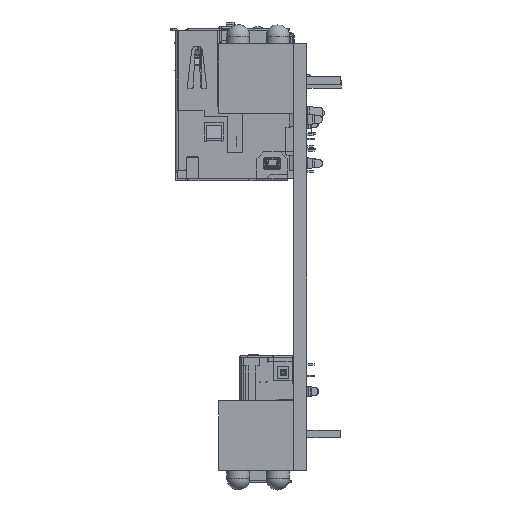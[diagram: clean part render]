
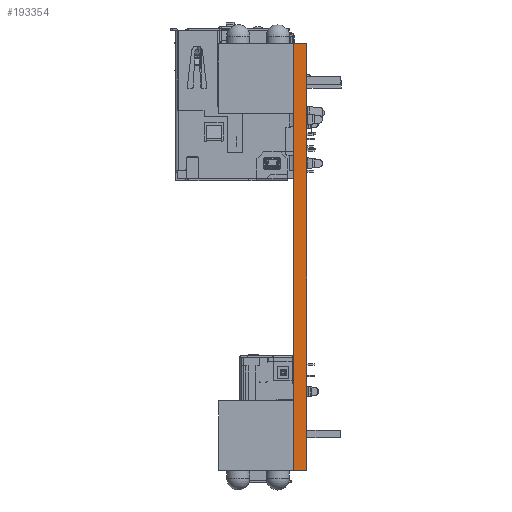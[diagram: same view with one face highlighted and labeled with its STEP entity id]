
A CAD part, left-side view. The second image highlights one B-rep face of the part: STEP entity #193354.
In plain terms, the highlighted planar face has unit normal (-1, 0, 0).
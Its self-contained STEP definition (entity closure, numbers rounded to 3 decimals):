
#7762=LINE('',#279077,#32178);
#8920=LINE('',#281515,#33336);
#9319=LINE('',#282357,#33735);
#9320=LINE('',#282358,#33736);
#32178=VECTOR('',#224175,10.);
#33336=VECTOR('',#226027,10.);
#33735=VECTOR('',#226452,10.);
#33736=VECTOR('',#226453,10.);
#54253=PLANE('',#204326);
#62408=FACE_OUTER_BOUND('',#72725,.T.);
#72725=EDGE_LOOP('',(#143542,#143543,#143544,#143545));
#88453=VERTEX_POINT('',#279074);
#88454=VERTEX_POINT('',#279076);
#89301=VERTEX_POINT('',#281514);
#89715=VERTEX_POINT('',#282356);
#108610=EDGE_CURVE('',#88454,#88453,#7762,.T.);
#109810=EDGE_CURVE('',#89301,#88454,#8920,.T.);
#110225=EDGE_CURVE('',#89715,#88453,#9319,.T.);
#110226=EDGE_CURVE('',#89301,#89715,#9320,.T.);
#143542=ORIENTED_EDGE('',*,*,#109810,.T.);
#143543=ORIENTED_EDGE('',*,*,#108610,.T.);
#143544=ORIENTED_EDGE('',*,*,#110225,.F.);
#143545=ORIENTED_EDGE('',*,*,#110226,.F.);
#193354=ADVANCED_FACE('',(#62408),#54253,.T.);
#204326=AXIS2_PLACEMENT_3D('',#282355,#226450,#226451);
#224175=DIRECTION('',(0.,1.,0.));
#226027=DIRECTION('',(0.,0.,1.));
#226450=DIRECTION('center_axis',(-1.,0.,0.));
#226451=DIRECTION('ref_axis',(0.,0.,1.));
#226452=DIRECTION('',(0.,0.,1.));
#226453=DIRECTION('',(0.,1.,0.));
#279074=CARTESIAN_POINT('',(0.,1.7,0.));
#279076=CARTESIAN_POINT('',(0.,0.,0.));
#279077=CARTESIAN_POINT('',(0.,0.,0.));
#281514=CARTESIAN_POINT('',(0.,0.,-55.1));
#281515=CARTESIAN_POINT('',(0.,0.,-55.1));
#282355=CARTESIAN_POINT('Origin',(0.,0.,-55.1));
#282356=CARTESIAN_POINT('',(0.,1.7,-55.1));
#282357=CARTESIAN_POINT('',(0.,1.7,-55.1));
#282358=CARTESIAN_POINT('',(0.,0.,-55.1));
